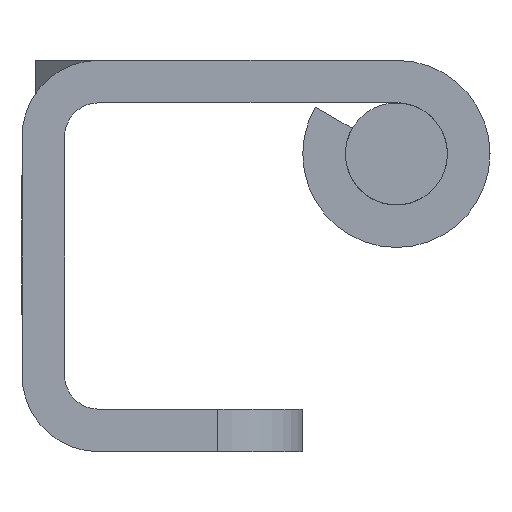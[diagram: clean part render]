
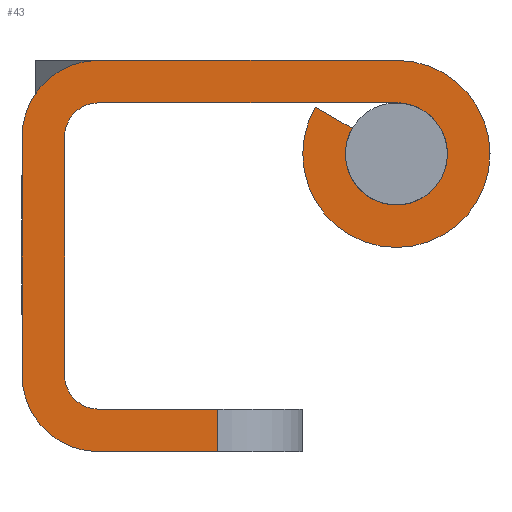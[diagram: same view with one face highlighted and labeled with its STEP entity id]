
A CAD part, front view. The second image highlights one B-rep face of the part: STEP entity #43.
In plain terms, the highlighted planar face has unit normal (0, -1, 0).
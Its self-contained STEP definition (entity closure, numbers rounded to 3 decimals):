
#43=ADVANCED_FACE('',(#101),#1029,.T.);
#101=FACE_OUTER_BOUND('',#163,.T.);
#163=EDGE_LOOP('',(#293,#294,#295,#296,#297,#298,#299,#300,#301,#302,#303,
#304,#305,#306));
#293=ORIENTED_EDGE('',*,*,#533,.F.);
#294=ORIENTED_EDGE('',*,*,#530,.F.);
#295=ORIENTED_EDGE('',*,*,#524,.F.);
#296=ORIENTED_EDGE('',*,*,#520,.F.);
#297=ORIENTED_EDGE('',*,*,#515,.F.);
#298=ORIENTED_EDGE('',*,*,#568,.F.);
#299=ORIENTED_EDGE('',*,*,#565,.F.);
#300=ORIENTED_EDGE('',*,*,#578,.F.);
#301=ORIENTED_EDGE('',*,*,#555,.F.);
#302=ORIENTED_EDGE('',*,*,#588,.F.);
#303=ORIENTED_EDGE('',*,*,#545,.F.);
#304=ORIENTED_EDGE('',*,*,#542,.F.);
#305=ORIENTED_EDGE('',*,*,#539,.F.);
#306=ORIENTED_EDGE('',*,*,#609,.F.);
#515=EDGE_CURVE('',#891,#892,#812,.T.);
#520=EDGE_CURVE('',#892,#896,#695,.T.);
#524=EDGE_CURVE('',#896,#899,#817,.T.);
#530=EDGE_CURVE('',#899,#906,#697,.T.);
#533=EDGE_CURVE('',#906,#949,#823,.T.);
#539=EDGE_CURVE('',#955,#908,#829,.T.);
#542=EDGE_CURVE('',#908,#910,#699,.T.);
#545=EDGE_CURVE('',#910,#912,#832,.T.);
#555=EDGE_CURVE('',#922,#923,#839,.T.);
#565=EDGE_CURVE('',#931,#932,#844,.T.);
#568=EDGE_CURVE('',#932,#891,#705,.T.);
#578=EDGE_CURVE('',#923,#931,#707,.T.);
#588=EDGE_CURVE('',#912,#922,#713,.T.);
#609=EDGE_CURVE('',#949,#955,#862,.T.);
#695=TRIMMED_CURVE($,#751,(#1636),(#1637),.T.,.CARTESIAN.);
#697=TRIMMED_CURVE($,#753,(#1658),(#1659),.T.,.CARTESIAN.);
#699=TRIMMED_CURVE($,#755,(#1684),(#1685),.T.,.CARTESIAN.);
#705=TRIMMED_CURVE($,#761,(#1742),(#1743),.T.,.CARTESIAN.);
#707=TRIMMED_CURVE($,#763,(#1764),(#1765),.T.,.CARTESIAN.);
#713=TRIMMED_CURVE($,#769,(#1790),(#1791),.T.,.CARTESIAN.);
#751=CIRCLE('',#1173,2.);
#753=CIRCLE('',#1175,2.);
#755=CIRCLE('',#1177,4.5);
#761=CIRCLE('',#1183,3.);
#763=CIRCLE('',#1185,5.5);
#769=CIRCLE('',#1191,4.5);
#812=B_SPLINE_CURVE_WITH_KNOTS('',1,(#1625,#1626),.UNSPECIFIED.,.F.,.F.,
(2,2),(-228.278,-210.778),.UNSPECIFIED.);
#817=B_SPLINE_CURVE_WITH_KNOTS('',1,(#1645,#1646),.UNSPECIFIED.,.F.,.F.,
(2,2),(-207.637,-193.637),.UNSPECIFIED.);
#823=B_SPLINE_CURVE_WITH_KNOTS('',1,(#1665,#1666),.UNSPECIFIED.,.F.,.F.,
(2,2),(-190.495,-183.495),.UNSPECIFIED.);
#829=B_SPLINE_CURVE_WITH_KNOTS('',1,(#1677,#1678),.UNSPECIFIED.,.F.,.F.,
(2,2),(-170.995,-163.995),.UNSPECIFIED.);
#832=B_SPLINE_CURVE_WITH_KNOTS('',1,(#1691,#1692),.UNSPECIFIED.,.F.,.F.,
(2,2),(-156.927,-142.927),.UNSPECIFIED.);
#839=B_SPLINE_CURVE_WITH_KNOTS('',1,(#1713,#1714),.UNSPECIFIED.,.F.,.F.,
(2,2),(-135.858,-118.358),.UNSPECIFIED.);
#844=B_SPLINE_CURVE_WITH_KNOTS('',1,(#1735,#1736),.UNSPECIFIED.,.F.,.F.,
(2,2),(-89.56,-87.06),.UNSPECIFIED.);
#862=B_SPLINE_CURVE_WITH_KNOTS('',1,(#1847,#1848),.UNSPECIFIED.,.F.,.F.,
(2,2),(0.,2.5),.UNSPECIFIED.);
#891=VERTEX_POINT('',#1553);
#892=VERTEX_POINT('',#1554);
#896=VERTEX_POINT('',#1558);
#899=VERTEX_POINT('',#1561);
#906=VERTEX_POINT('',#1568);
#908=VERTEX_POINT('',#1570);
#910=VERTEX_POINT('',#1572);
#912=VERTEX_POINT('',#1574);
#922=VERTEX_POINT('',#1584);
#923=VERTEX_POINT('',#1585);
#931=VERTEX_POINT('',#1593);
#932=VERTEX_POINT('',#1594);
#949=VERTEX_POINT('',#1611);
#955=VERTEX_POINT('',#1617);
#1029=PLANE('',#1151);
#1151=AXIS2_PLACEMENT_3D('',#1451,#1270,$);
#1173=AXIS2_PLACEMENT_3D($,#1635,#1292,#1293);
#1175=AXIS2_PLACEMENT_3D($,#1657,#1296,#1297);
#1177=AXIS2_PLACEMENT_3D($,#1683,#1300,#1301);
#1183=AXIS2_PLACEMENT_3D($,#1741,#1312,#1313);
#1185=AXIS2_PLACEMENT_3D($,#1763,#1316,#1317);
#1191=AXIS2_PLACEMENT_3D($,#1789,#1328,#1329);
#1270=DIRECTION('',(0.,-1.,0.));
#1292=DIRECTION('',(0.,-1.,0.));
#1293=DIRECTION('',(0.,0.,1.));
#1296=DIRECTION('',(0.,-1.,0.));
#1297=DIRECTION('',(-1.,0.,0.));
#1300=DIRECTION('',(0.,1.,0.));
#1301=DIRECTION('',(0.,0.,-1.));
#1312=DIRECTION('',(0.,-1.,0.));
#1313=DIRECTION('',(-0.866,0.,0.5));
#1316=DIRECTION('',(0.,1.,0.));
#1317=DIRECTION('',(0.,0.,1.));
#1328=DIRECTION('',(0.,1.,0.));
#1329=DIRECTION('',(-1.,0.,0.));
#1451=CARTESIAN_POINT('',(23.939,-45.,-2.99));
#1553=CARTESIAN_POINT('',(15.001,-45.,20.385));
#1554=CARTESIAN_POINT('',(-2.499,-45.,20.385));
#1558=CARTESIAN_POINT('',(-4.499,-45.,18.385));
#1561=CARTESIAN_POINT('',(-4.499,-45.,4.385));
#1568=CARTESIAN_POINT('',(-2.499,-45.,2.385));
#1570=CARTESIAN_POINT('',(-2.499,-45.,-0.115));
#1572=CARTESIAN_POINT('',(-6.999,-45.,4.385));
#1574=CARTESIAN_POINT('',(-6.999,-45.,18.385));
#1584=CARTESIAN_POINT('',(-2.499,-45.,22.885));
#1585=CARTESIAN_POINT('',(15.001,-45.,22.885));
#1593=CARTESIAN_POINT('',(10.238,-45.,20.135));
#1594=CARTESIAN_POINT('',(12.403,-45.,18.885));
#1611=CARTESIAN_POINT('',(4.501,-45.,2.385));
#1617=CARTESIAN_POINT('',(4.501,-45.,-0.115));
#1625=CARTESIAN_POINT('',(15.001,-45.,20.385));
#1626=CARTESIAN_POINT('',(-2.499,-45.,20.385));
#1635=CARTESIAN_POINT('',(-2.499,-45.,18.385));
#1636=CARTESIAN_POINT('',(-2.499,-45.,20.385));
#1637=CARTESIAN_POINT('',(-4.499,-45.,18.385));
#1645=CARTESIAN_POINT('',(-4.499,-45.,18.385));
#1646=CARTESIAN_POINT('',(-4.499,-45.,4.385));
#1657=CARTESIAN_POINT('',(-2.499,-45.,4.385));
#1658=CARTESIAN_POINT('',(-4.499,-45.,4.385));
#1659=CARTESIAN_POINT('',(-2.499,-45.,2.385));
#1665=CARTESIAN_POINT('',(-2.499,-45.,2.385));
#1666=CARTESIAN_POINT('',(4.501,-45.,2.385));
#1677=CARTESIAN_POINT('',(4.501,-45.,-0.115));
#1678=CARTESIAN_POINT('',(-2.499,-45.,-0.115));
#1683=CARTESIAN_POINT('',(-2.499,-45.,4.385));
#1684=CARTESIAN_POINT('',(-2.499,-45.,-0.115));
#1685=CARTESIAN_POINT('',(-6.999,-45.,4.385));
#1691=CARTESIAN_POINT('',(-6.999,-45.,4.385));
#1692=CARTESIAN_POINT('',(-6.999,-45.,18.385));
#1713=CARTESIAN_POINT('',(-2.499,-45.,22.885));
#1714=CARTESIAN_POINT('',(15.001,-45.,22.885));
#1735=CARTESIAN_POINT('',(10.238,-45.,20.135));
#1736=CARTESIAN_POINT('',(12.403,-45.,18.885));
#1741=CARTESIAN_POINT('',(15.001,-45.,17.385));
#1742=CARTESIAN_POINT('',(12.403,-45.,18.885));
#1743=CARTESIAN_POINT('',(15.001,-45.,20.385));
#1763=CARTESIAN_POINT('',(15.001,-45.,17.385));
#1764=CARTESIAN_POINT('',(15.001,-45.,22.885));
#1765=CARTESIAN_POINT('',(10.238,-45.,20.135));
#1789=CARTESIAN_POINT('',(-2.499,-45.,18.385));
#1790=CARTESIAN_POINT('',(-6.999,-45.,18.385));
#1791=CARTESIAN_POINT('',(-2.499,-45.,22.885));
#1847=CARTESIAN_POINT('',(4.501,-45.,2.385));
#1848=CARTESIAN_POINT('',(4.501,-45.,-0.115));
